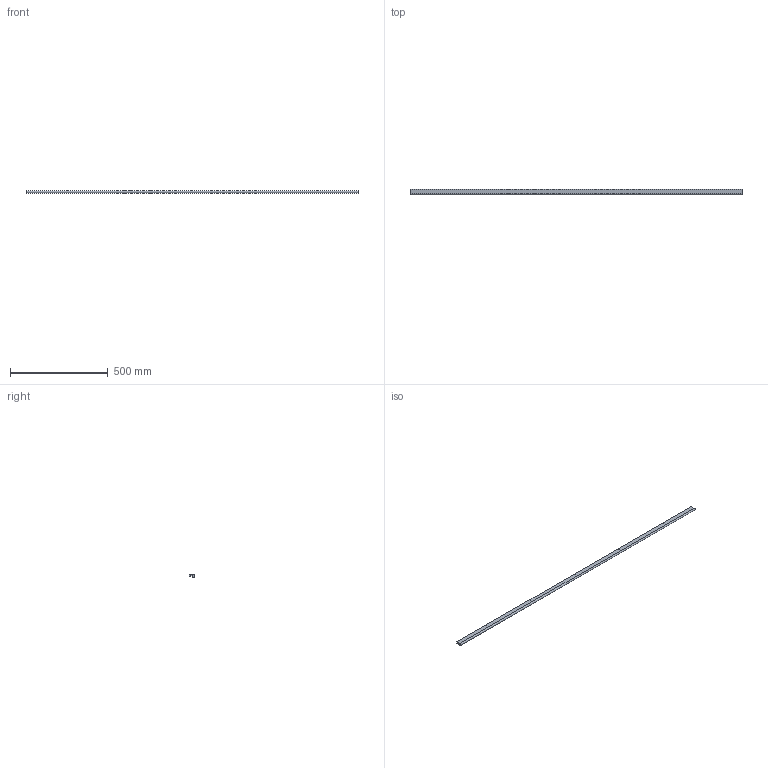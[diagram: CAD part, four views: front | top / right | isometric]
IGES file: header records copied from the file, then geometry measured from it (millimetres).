
Start section: Data from Parasolid IGES Translator 15.0.47, Copyright(c) 2006 Siemens P LM Software. All Rights Reserved.
Global section: file name: 115111.igs; native system:  By UGS Corp.; preprocessor: XPlus GENERIC/IGES 3.0; author: Noname; organization: Noname; date: 20140122.143423; units: millimetre
Bounding box: 1700 x 27 x 12 mm (x, y, z)
Surface area: 124989.5 mm2 (no closed solid volume)
Topology: 0 solids, 0 shells, 18 faces, 66 edges, 58 vertices
Faces by surface type: extrusion 12, revolution 6
